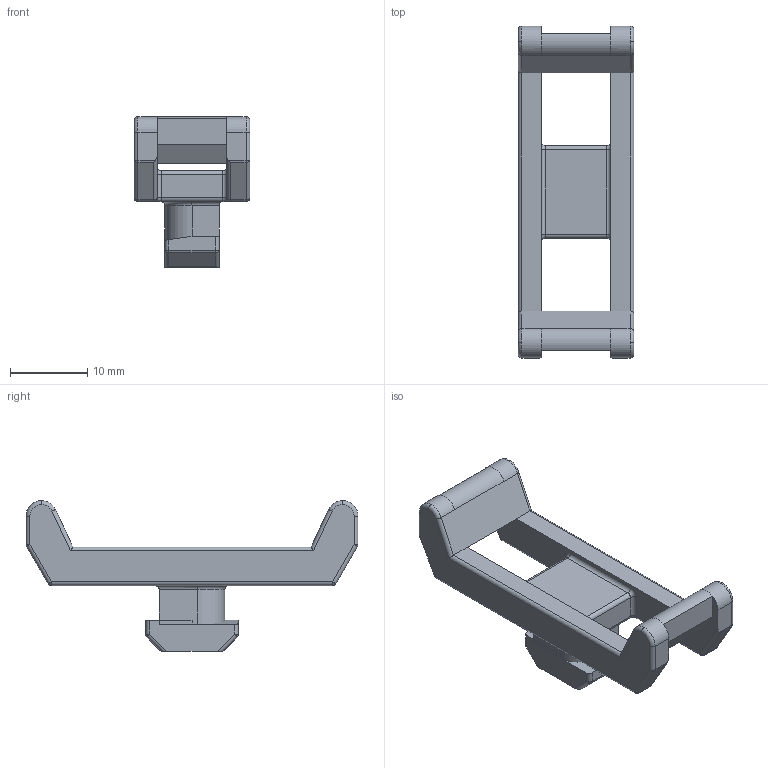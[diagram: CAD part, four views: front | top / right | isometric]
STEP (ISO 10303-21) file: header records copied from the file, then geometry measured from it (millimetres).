
FILE_DESCRIPTION (( 'STEP AP214' ), '1' );
FILE_NAME ('1.3058 kaapelikiinnike 45 leveä.STEP', '2024-02-01T08:25:34', ( '' ), ( '' ), 'SwSTEP 2.0', 'SolidWorks 2024', '' );
FILE_SCHEMA (( 'AUTOMOTIVE_DESIGN' ));
Length unit declared in the file: millimetre
Products named in the file (1): 1.3058 kaapelikiinnike 45 leveä
Bounding box: 15 x 43 x 19.5 mm (x, y, z)
Volume: 2863.3 mm3; surface area: 2450.4 mm2
Topology: 2 solids, 2 shells, 144 faces, 348 edges, 193 vertices
Faces by surface type: cylinder 66, plane 44, torus 18, sphere 16
Entity records: 4064 total; most frequent: CARTESIAN_POINT 746, DIRECTION 730, ORIENTED_EDGE 672, EDGE_CURVE 336, AXIS2_PLACEMENT_3D 273, VERTEX_POINT 193, LINE 184, VECTOR 184
